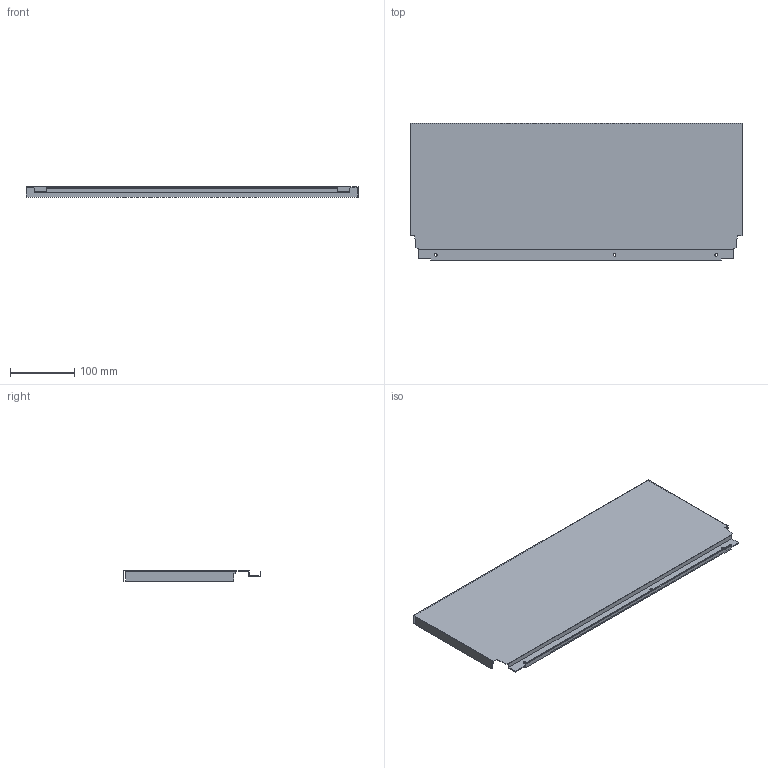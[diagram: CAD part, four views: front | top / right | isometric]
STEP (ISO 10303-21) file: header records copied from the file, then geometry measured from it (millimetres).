
FILE_DESCRIPTION (( 'STEP AP214' ), '1' );
FILE_NAME ('_DWD_XP Stahlrückwand_H214_KAB600_S16.step', '2010-07-08T13:02:48', ( 'grass' ), ( '' ), 'SwSTEP 2.0', 'SolidWorks 2010', '' );
FILE_SCHEMA (( 'AUTOMOTIVE_DESIGN' ));
Length unit declared in the file: millimetre
Products named in the file (1): _DWD_XP Stahlrückwand_H214_KAB600_S16
Bounding box: 517 x 214.58 x 16 mm (x, y, z)
Volume: 123669.8 mm3; surface area: 261376.4 mm2
Topology: 1 solids, 1 shells, 46 faces, 132 edges, 88 vertices
Faces by surface type: plane 40, cylinder 6
Entity records: 1534 total; most frequent: CARTESIAN_POINT 267, ORIENTED_EDGE 264, DIRECTION 238, EDGE_CURVE 132, VECTOR 120, LINE 120, VERTEX_POINT 88, AXIS2_PLACEMENT_3D 59
